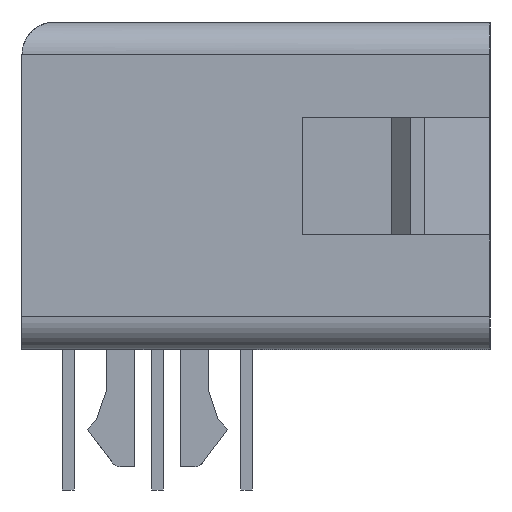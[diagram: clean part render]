
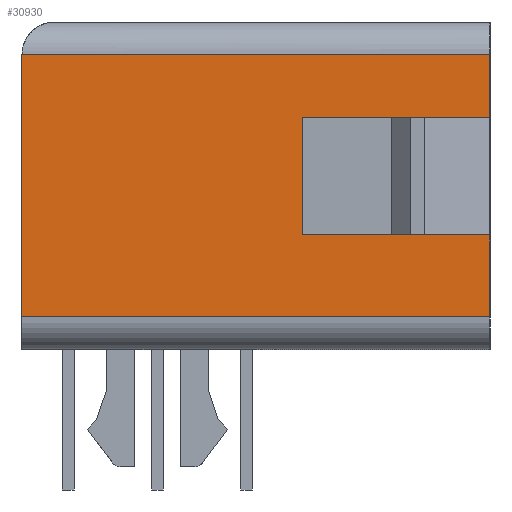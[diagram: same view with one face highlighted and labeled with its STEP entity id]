
A CAD part, left-side view. The second image highlights one B-rep face of the part: STEP entity #30930.
In plain terms, the highlighted planar face has unit normal (-1, 0, 0).
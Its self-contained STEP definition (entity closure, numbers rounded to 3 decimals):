
#21560=CARTESIAN_POINT('',(-31.78,0.,-2.45));
#21570=VERTEX_POINT('',#21560);
#21600=CARTESIAN_POINT('',(-31.78,0.,-2.45));
#21610=DIRECTION('',(0.,1.,0.));
#21620=VECTOR('',#21610,1.);
#21630=LINE('',#21600,#21620);
#21640=CARTESIAN_POINT('',(-31.78,-4.,-2.45));
#21650=VERTEX_POINT('',#21640);
#21660=EDGE_CURVE('',#21650,#21570,#21630,.T.);
#27810=CARTESIAN_POINT('',(-31.78,0.,-6.3));
#27820=VERTEX_POINT('',#27810);
#27850=CARTESIAN_POINT('',(-31.78,0.,-6.3));
#27860=DIRECTION('',(0.,1.,0.));
#27870=VECTOR('',#27860,1.);
#27880=LINE('',#27850,#27870);
#27890=CARTESIAN_POINT('',(-31.78,-10.,-6.3));
#27900=VERTEX_POINT('',#27890);
#27910=EDGE_CURVE('',#27900,#27820,#27880,.T.);
#28970=CARTESIAN_POINT('',(-31.78,-10.,0.));
#28980=DIRECTION('',(0.,0.,-1.));
#28990=VECTOR('',#28980,1.);
#29000=LINE('',#28970,#28990);
#29010=CARTESIAN_POINT('',(-31.78,-10.,-0.7));
#29020=VERTEX_POINT('',#29010);
#29030=EDGE_CURVE('',#29020,#27900,#29000,.T.);
#30510=CARTESIAN_POINT('',(-31.78,0.,0.));
#30520=DIRECTION('',(-1.,0.,0.));
#30530=DIRECTION('',(0.,-1.,0.));
#30540=AXIS2_PLACEMENT_3D('',#30510,#30520,#30530);
#30550=PLANE('',#30540);
#30560=ORIENTED_EDGE('',*,*,#29030,.F.);
#30570=ORIENTED_EDGE('',*,*,#27910,.F.);
#30580=CARTESIAN_POINT('',(-31.78,0.,0.));
#30590=DIRECTION('',(0.,0.,-1.));
#30600=VECTOR('',#30590,1.);
#30610=LINE('',#30580,#30600);
#30620=CARTESIAN_POINT('',(-31.78,0.,-4.95));
#30630=VERTEX_POINT('',#30620);
#30640=EDGE_CURVE('',#30630,#27820,#30610,.T.);
#30650=ORIENTED_EDGE('',*,*,#30640,.T.);
#30660=CARTESIAN_POINT('',(-31.78,0.,-4.95));
#30670=DIRECTION('',(0.,-1.,0.));
#30680=VECTOR('',#30670,1.);
#30690=LINE('',#30660,#30680);
#30700=CARTESIAN_POINT('',(-31.78,-4.,-4.95));
#30710=VERTEX_POINT('',#30700);
#30720=EDGE_CURVE('',#30630,#30710,#30690,.T.);
#30730=ORIENTED_EDGE('',*,*,#30720,.F.);
#30740=CARTESIAN_POINT('',(-31.78,-4.,0.));
#30750=DIRECTION('',(0.,0.,-1.));
#30760=VECTOR('',#30750,1.);
#30770=LINE('',#30740,#30760);
#30780=EDGE_CURVE('',#21650,#30710,#30770,.T.);
#30790=ORIENTED_EDGE('',*,*,#30780,.T.);
#30800=ORIENTED_EDGE('',*,*,#21660,.F.);
#30810=CARTESIAN_POINT('',(-31.78,0.,-0.7));
#30820=VERTEX_POINT('',#30810);
#30830=EDGE_CURVE('',#30820,#21570,#30610,.T.);
#30840=ORIENTED_EDGE('',*,*,#30830,.T.);
#30850=CARTESIAN_POINT('',(-31.78,0.,-0.7));
#30860=DIRECTION('',(0.,1.,0.));
#30870=VECTOR('',#30860,1.);
#30880=LINE('',#30850,#30870);
#30890=EDGE_CURVE('',#29020,#30820,#30880,.T.);
#30900=ORIENTED_EDGE('',*,*,#30890,.T.);
#30910=EDGE_LOOP('',(#30900,#30840,#30800,#30790,#30730,#30650,#30570,
#30560));
#30920=FACE_OUTER_BOUND('',#30910,.T.);
#30930=ADVANCED_FACE('',(#30920),#30550,.T.);
